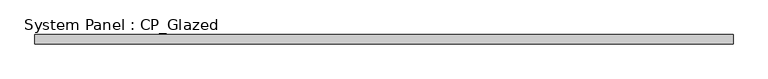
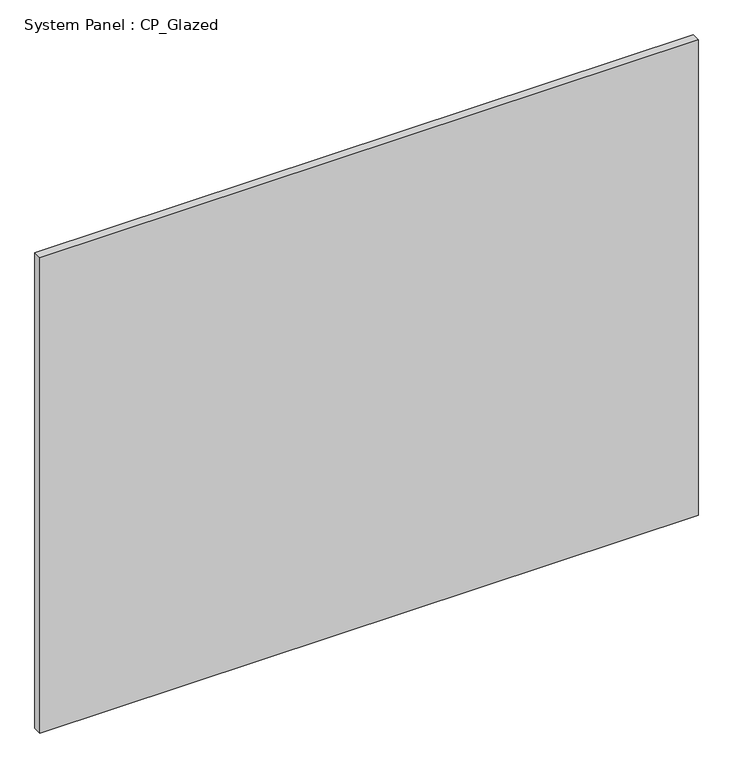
"""IFC4 building model written with IfcOpenShell, lengths in millimetres: plate geometry, System Panel : CP_Glazed."""

from ifc_helpers import new_model, si_unit, origin, origin_with_axes, place, context, project, spatial, polyline, outline, extrude, source, transform, mapped, element, save


def system_panel_cp_glazed_a8c442a2(model_context):
    return source(origin(), model_context, "Body", "SweptSolid", [
        extrude(outline(polyline([(968.9041667, 19.05), (-968.9041667, 19.05), (-968.9041667, 44.45), (968.9041667, 44.45), (968.9041667, 19.05)])), origin_with_axes(), (0.0, 0.0, 1.0), 1479.55),
    ])


if __name__ == "__main__":
    model = new_model("IFC4")
    model_context = context("Model", 3, world=origin())
    ifc_project = project(units=[si_unit("LENGTHUNIT", "METRE", prefix="MILLI")], contexts=[model_context])
    site = spatial("IfcSite", under=ifc_project)
    building = spatial("IfcBuilding", under=site)
    placement = place(None, origin())
    system_panel_cp_glazed_shape = system_panel_cp_glazed_a8c442a2(model_context)
    element("IfcPlate", 1, ObjectType="System Panel : CP_Glazed", at=placement, inside=building, context=model_context, shape_type="MappedRepresentation", body=[
        mapped(system_panel_cp_glazed_shape, transform((0.0, 0.0, 0.0), x_axis=(1.0, 0.0, 0.0), y_axis=(0.0, 1.0, 0.0), z_axis=(0.0, 0.0, 1.0))),
    ])
    save(model, "model.ifc")
